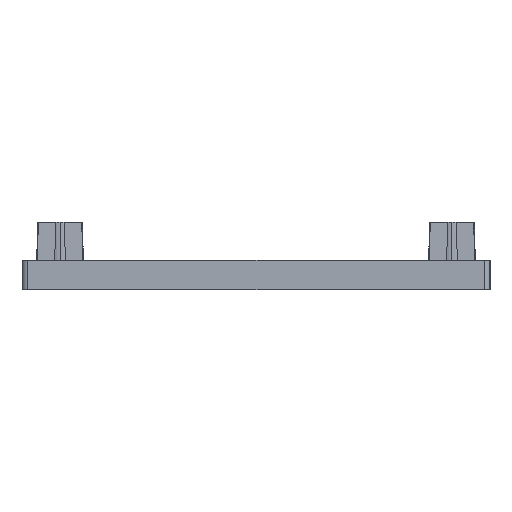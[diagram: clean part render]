
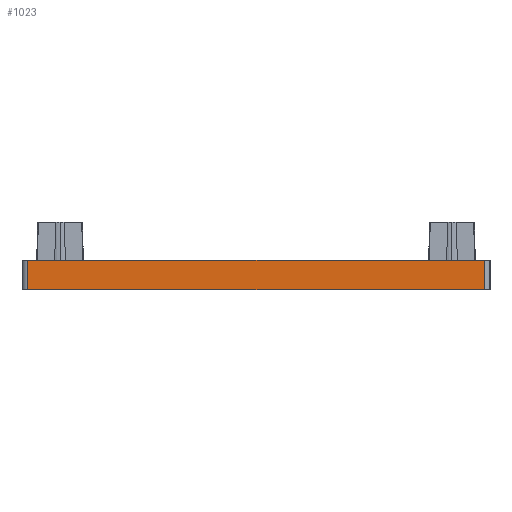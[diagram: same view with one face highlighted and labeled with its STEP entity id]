
A CAD part, left-side view. The second image highlights one B-rep face of the part: STEP entity #1023.
In plain terms, the highlighted planar face has unit normal (-1, 0, 0).
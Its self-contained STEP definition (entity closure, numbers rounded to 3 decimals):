
#16 = PLANE ( 'NONE',  #1246 ) ;
#60 = DIRECTION ( 'NONE',  ( 0., -1., 0. ) ) ;
#172 = LINE ( 'NONE', #922, #1039 ) ;
#175 = CARTESIAN_POINT ( 'NONE',  ( -60., -39., 5. ) ) ;
#207 = LINE ( 'NONE', #917, #621 ) ;
#284 = ORIENTED_EDGE ( 'NONE', *, *, #412, .T. ) ;
#393 = ORIENTED_EDGE ( 'NONE', *, *, #559, .T. ) ;
#412 = EDGE_CURVE ( 'NONE', #2378, #937, #1583, .T. ) ;
#559 = EDGE_CURVE ( 'NONE', #1497, #2378, #1309, .T. ) ;
#607 = CARTESIAN_POINT ( 'NONE',  ( -60., 39., 0. ) ) ;
#621 = VECTOR ( 'NONE', #773, 1000. ) ;
#646 = CARTESIAN_POINT ( 'NONE',  ( -60., 40., 0. ) ) ;
#726 = DIRECTION ( 'NONE',  ( 0., -1., 0. ) ) ;
#769 = DIRECTION ( 'NONE',  ( 0., 0., 1. ) ) ;
#773 = DIRECTION ( 'NONE',  ( 0., 0., 1. ) ) ;
#917 = CARTESIAN_POINT ( 'NONE',  ( -60., -39., 0. ) ) ;
#922 = CARTESIAN_POINT ( 'NONE',  ( -60., 40., 5. ) ) ;
#937 = VERTEX_POINT ( 'NONE', #1306 ) ;
#1023 = ADVANCED_FACE ( 'NONE', ( #2438 ), #16, .T. ) ;
#1039 = VECTOR ( 'NONE', #726, 1000. ) ;
#1246 = AXIS2_PLACEMENT_3D ( 'NONE', #1335, #2056, #769 ) ;
#1306 = CARTESIAN_POINT ( 'NONE',  ( -60., -39., 0. ) ) ;
#1309 = LINE ( 'NONE', #607, #1512 ) ;
#1312 = EDGE_LOOP ( 'NONE', ( #2282, #393, #284, #1968 ) ) ;
#1335 = CARTESIAN_POINT ( 'NONE',  ( -60., 40., 0. ) ) ;
#1497 = VERTEX_POINT ( 'NONE', #2263 ) ;
#1512 = VECTOR ( 'NONE', #2261, 1000. ) ;
#1525 = CARTESIAN_POINT ( 'NONE',  ( -60., 39., 0. ) ) ;
#1583 = LINE ( 'NONE', #646, #2062 ) ;
#1595 = EDGE_CURVE ( 'NONE', #937, #1827, #207, .T. ) ;
#1827 = VERTEX_POINT ( 'NONE', #175 ) ;
#1968 = ORIENTED_EDGE ( 'NONE', *, *, #1595, .T. ) ;
#2056 = DIRECTION ( 'NONE',  ( -1., 0., 0. ) ) ;
#2062 = VECTOR ( 'NONE', #60, 1000. ) ;
#2212 = EDGE_CURVE ( 'NONE', #1497, #1827, #172, .T. ) ;
#2261 = DIRECTION ( 'NONE',  ( 0., 0., -1. ) ) ;
#2263 = CARTESIAN_POINT ( 'NONE',  ( -60., 39., 5. ) ) ;
#2282 = ORIENTED_EDGE ( 'NONE', *, *, #2212, .F. ) ;
#2378 = VERTEX_POINT ( 'NONE', #1525 ) ;
#2438 = FACE_OUTER_BOUND ( 'NONE', #1312, .T. ) ;
